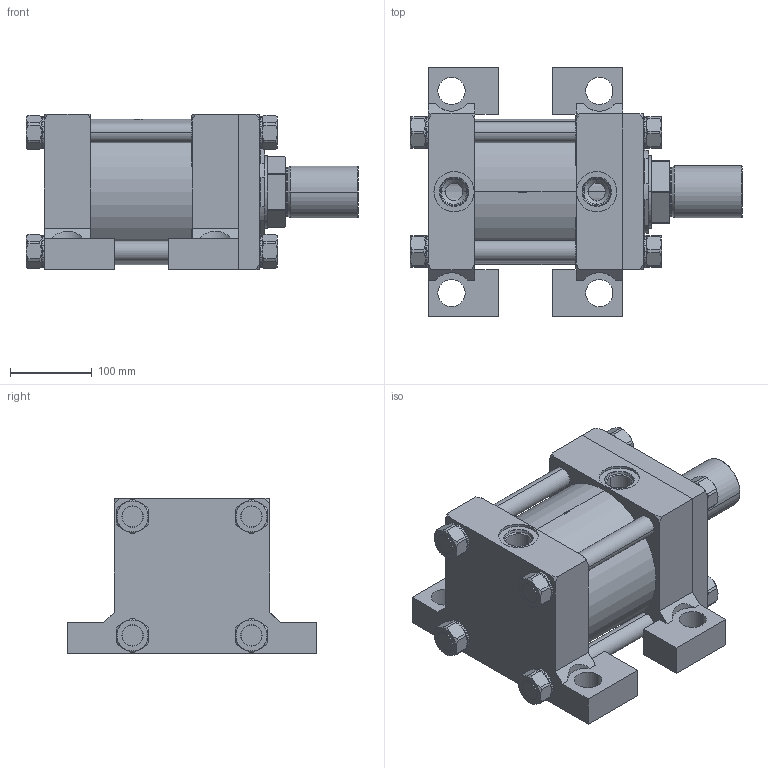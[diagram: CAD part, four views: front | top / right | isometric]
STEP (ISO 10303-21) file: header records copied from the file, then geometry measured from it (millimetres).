
FILE_DESCRIPTION (( 'STEP AP214' ), '1' );
FILE_NAME ('6.00C2HHNAT144A2.000.step', '2026-03-26T21:13:26', ( '' ), ( '' ), 'SwSTEP 2.0', 'SolidWorks 2023', '' );
FILE_SCHEMA (( 'AUTOMOTIVE_DESIGN' ));
Length unit declared in the file: inch
Products named in the file (1): 6.00C2HHNAT144A2.000
Bounding box: 406.4 x 304.8 x 190.5 mm (x, y, z)
Volume: 8734847 mm3; surface area: 966936.3 mm2
Topology: 44 solids, 44 shells, 1215 faces, 3133 edges, 2014 vertices
Faces by surface type: plane 789, cylinder 221, cone 163, bspline 34, torus 8
Entity records: 55064 total; most frequent: CARTESIAN_POINT 10969, ORIENTED_EDGE 6266, DIRECTION 5135, EDGE_CURVE 3133, VERTEX_POINT 2014, AXIS2_PLACEMENT_3D 1742, VECTOR 1651, LINE 1651
